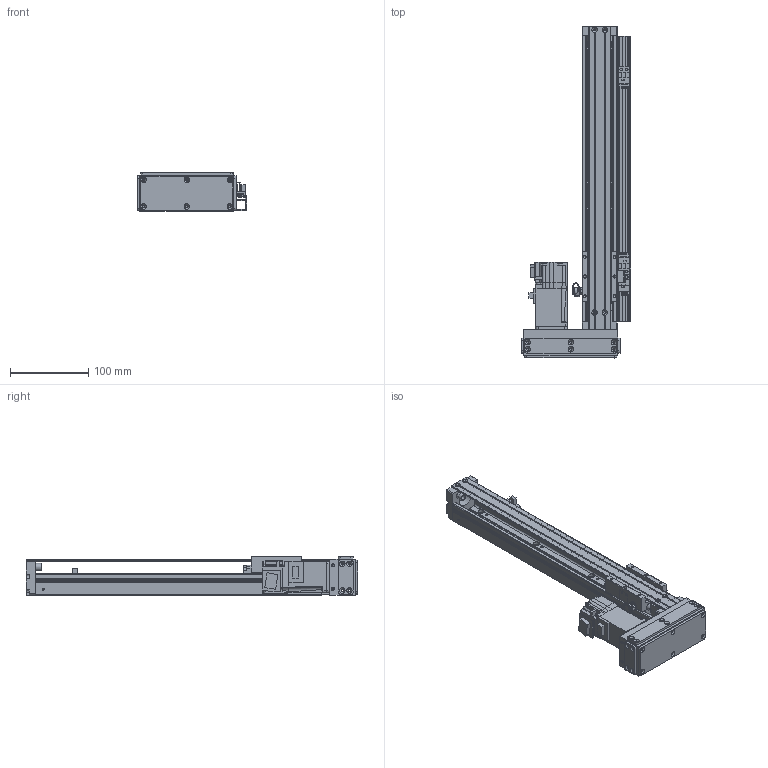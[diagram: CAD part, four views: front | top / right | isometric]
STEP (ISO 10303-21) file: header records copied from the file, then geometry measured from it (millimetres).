
FILE_DESCRIPTION(/* description */ ('MANUFACTURE'),/* implementation_level */ '2;1');
FILE_NAME(/* name */ '\\192.168.0.160\disk1\HAN SHIN Master\B-설계부문\C-표준\B-2024년\BC02-표준도면\+로봇 개선표준도면\표준 승인도 폴더 - 재작업\3D\HG45\병렬-L\HG45-L10-N-0250-R10.stp',/* time_stamp */ '2024-03-05T11:10:20+09:00',/* author */ ('User'),/* organization */ (''),/* preprocessor_version */ 'ST-DEVELOPER v18.1',/* originating_system */ 'Autodesk Inventor 2022',/* authorisation */ 'LIP');
FILE_SCHEMA (('AUTOMOTIVE_DESIGN { 1 0 10303 214 3 1 1 }'));
Products named in the file (21): HG45-L10-N-0500-R10 - 간소화; HR45 S BASE; HR45 REAR BLOCK; HR45 FRONT BLOCK; HR45 STOPPER; HR45 SENSOR RAIL; HR45 SENSOR DOG; HC45 - TABLE (SFSR); HR45 UPCOVER-28mm; NIPPLE CAP(신규); hsr_ftht_A-M6F_grease_nipple_joint; HR45 MOTOR PLATE 100W; HR45 L,R MOTOR PLATE; hg-kr13_; 화살표; HR45 LR BELT COVER; HR45 ACRYL COVER(정면); HR45 ACRYL COVER(측면); HR45 ACRYL COVER(상하면); EE_SX674A; ESF1210 NUT
Assembly tree (27 placements, depth 2):
  HG45-L10-N-0500-R10 - 간소화
    HR45 S BASE
    HR45 REAR BLOCK
    HR45 FRONT BLOCK
    HR45 STOPPER  x4
    HR45 SENSOR RAIL
    HR45 SENSOR DOG
    EE_SX674A  x3
    HC45 - TABLE (SFSR)
    HR45 UPCOVER-28mm
    NIPPLE CAP(신규)
    hsr_ftht_A-M6F_grease_nipple_joint
    HR45 MOTOR PLATE 100W
    HR45 L,R MOTOR PLATE
    hg-kr13_
    화살표  x2
    HR45 LR BELT COVER
    HR45 ACRYL COVER(상하면)  x2
    HR45 ACRYL COVER(정면)
    HR45 ACRYL COVER(측면)
    ESF1210 NUT
Bounding box: 139.5 x 424 x 50 mm (x, y, z)
Volume: 556186.5 mm3; surface area: 287643.6 mm2
Topology: 27 solids, 27 shells, 2310 faces, 6328 edges, 4160 vertices
Faces by surface type: plane 1656, cylinder 500, cone 127, bspline 13, sphere 8, torus 6
Full cylindrical faces by diameter (mm): 1 x1, 2.013 x6, 2.459 x74, 2.5 x4, 3 x11, 3.242 x20, 3.4 x36, 3.5 x21, 4 x13, 4.134 x1, 4.5 x14, 4.917 x2, 5.6 x3, 5.9 x2, 6 x20, 6.5 x6, 8 x9, 9 x4, 10 x1, 12 x1, 13 x1, 15 x1, 18 x1, 22 x2, 24 x1, 26 x1, 30 x2
Entity records: 70989 total; most frequent: CARTESIAN_POINT 13893, ORIENTED_EDGE 11776, DIRECTION 11186, EDGE_CURVE 5888, LINE 4660, VECTOR 4660, VERTEX_POINT 3913, AXIS2_PLACEMENT_3D 3263
